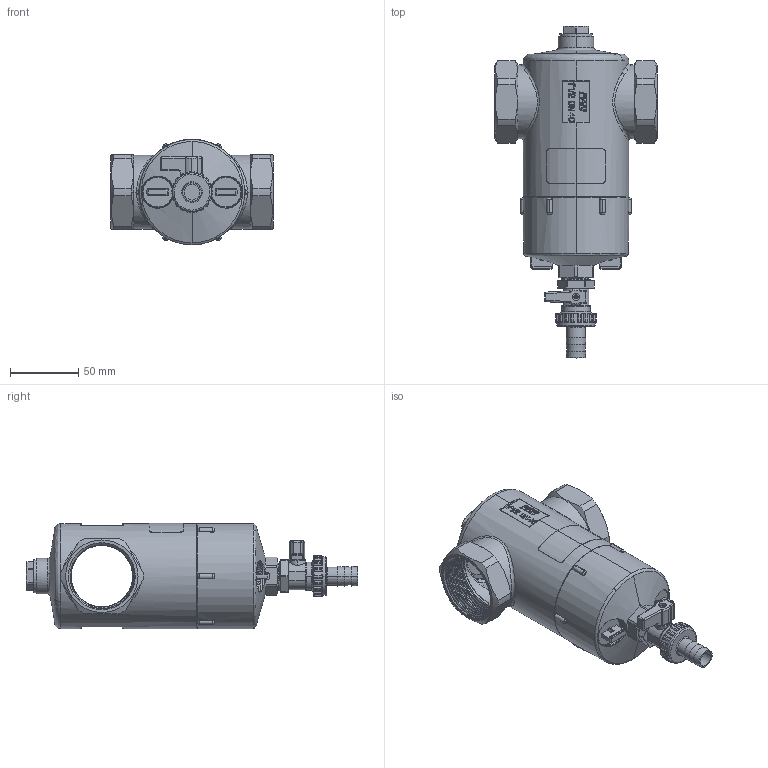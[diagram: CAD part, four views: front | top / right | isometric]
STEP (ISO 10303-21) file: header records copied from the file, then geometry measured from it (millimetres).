
FILE_DESCRIPTION (( 'STEP AP214' ), '1' );
FILE_NAME ('FAR214.STEP', '2022-05-06T10:02:47', ( '' ), ( '' ), 'SwSTEP 2.0', 'SolidWorks 2021', '' );
FILE_SCHEMA (( 'AUTOMOTIVE_DESIGN' ));
Length unit declared in the file: millimetre
Products named in the file (13): FAR214; 581mnm_F; 3812asb; 8350 172; Loctite 243_12; 1442trm_giallo; 8350 635; 1500trm_giallo; 200lemB; 4627asb; 3447 12; 227lem; 542mnm_F
Assembly tree (13 placements, depth 3):
  FAR214
    1442trm_giallo
    8350 635
    3812asb
      542mnm_F
      8350 172
    3447 12
    Loctite 243_12
    1500trm_giallo
    200lemB
    4627asb  x2
      581mnm_F
      227lem
Bounding box: 119 x 242.9 x 77.25 mm (x, y, z)
Volume: 218699.3 mm3; surface area: 141240.3 mm2
Topology: 14 solids, 14 shells, 1543 faces, 4020 edges, 2556 vertices
Faces by surface type: cylinder 610, plane 409, bspline 387, cone 137
Entity records: 87154 total; most frequent: CARTESIAN_POINT 54493, ORIENTED_EDGE 7578, DIRECTION 5457, EDGE_CURVE 3789, VERTEX_POINT 2410, AXIS2_PLACEMENT_3D 1920, VECTOR 1617, LINE 1617
